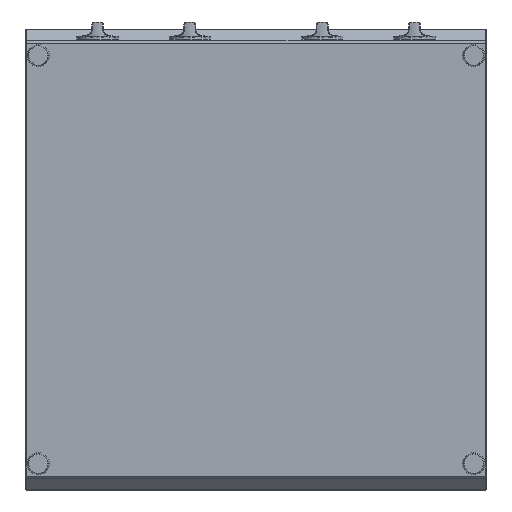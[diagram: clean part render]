
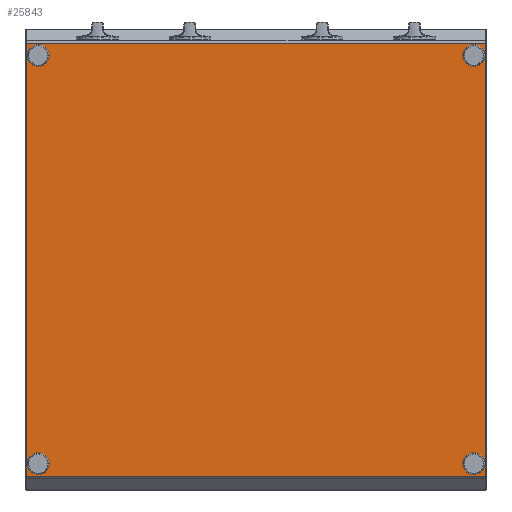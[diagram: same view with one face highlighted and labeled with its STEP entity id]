
A CAD part, front view. The second image highlights one B-rep face of the part: STEP entity #25843.
In plain terms, the highlighted planar face has unit normal (0, -1, 0).
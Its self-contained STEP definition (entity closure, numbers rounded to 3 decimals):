
#901 = CARTESIAN_POINT ( 'NONE',  ( 398.5, -179.653, 375.726 ) ) ;
#902 = CARTESIAN_POINT ( 'NONE',  ( -398.5, -179.653, 375.726 ) ) ;
#904 = CARTESIAN_POINT ( 'NONE',  ( -398.5, -179.653, -375.726 ) ) ;
#906 = CARTESIAN_POINT ( 'NONE',  ( 398.5, -179.653, -375.726 ) ) ;
#1825 = VERTEX_POINT ( 'NONE', #2740 ) ;
#1826 = VERTEX_POINT ( 'NONE', #2741 ) ;
#1829 = VERTEX_POINT ( 'NONE', #2744 ) ;
#1830 = VERTEX_POINT ( 'NONE', #2745 ) ;
#1833 = VERTEX_POINT ( 'NONE', #2748 ) ;
#1834 = VERTEX_POINT ( 'NONE', #2749 ) ;
#1837 = VERTEX_POINT ( 'NONE', #2752 ) ;
#1838 = VERTEX_POINT ( 'NONE', #2753 ) ;
#2740 = CARTESIAN_POINT ( 'NONE',  ( 378., -179.653, -358.771 ) ) ;
#2741 = CARTESIAN_POINT ( 'NONE',  ( 378., -179.653, -349.681 ) ) ;
#2744 = CARTESIAN_POINT ( 'NONE',  ( -378., -179.653, -358.771 ) ) ;
#2745 = CARTESIAN_POINT ( 'NONE',  ( -378., -179.653, -349.681 ) ) ;
#2748 = CARTESIAN_POINT ( 'NONE',  ( -378., -179.653, 349.681 ) ) ;
#2749 = CARTESIAN_POINT ( 'NONE',  ( -378., -179.653, 358.771 ) ) ;
#2752 = CARTESIAN_POINT ( 'NONE',  ( 378., -179.653, 349.681 ) ) ;
#2753 = CARTESIAN_POINT ( 'NONE',  ( 378., -179.653, 358.771 ) ) ;
#9012 = CIRCLE ( 'NONE', #38666, 4.545 ) ;
#9015 = CIRCLE ( 'NONE', #38688, 4.545 ) ;
#9017 = CIRCLE ( 'NONE', #38672, 4.545 ) ;
#9018 = CIRCLE ( 'NONE', #38637, 4.545 ) ;
#9242 = CIRCLE ( 'NONE', #43149, 4.545 ) ;
#9263 = CIRCLE ( 'NONE', #43214, 4.545 ) ;
#9279 = CIRCLE ( 'NONE', #43241, 4.545 ) ;
#9318 = CIRCLE ( 'NONE', #42131, 4.545 ) ;
#10659 = ORIENTED_EDGE ( 'NONE', *, *, #13298, .F. ) ;
#10661 = ORIENTED_EDGE ( 'NONE', *, *, #22588, .F. ) ;
#10662 = ORIENTED_EDGE ( 'NONE', *, *, #13295, .F. ) ;
#10663 = ORIENTED_EDGE ( 'NONE', *, *, #22476, .F. ) ;
#10664 = ORIENTED_EDGE ( 'NONE', *, *, #13292, .F. ) ;
#10665 = ORIENTED_EDGE ( 'NONE', *, *, #22558, .F. ) ;
#10666 = ORIENTED_EDGE ( 'NONE', *, *, #13296, .F. ) ;
#10667 = ORIENTED_EDGE ( 'NONE', *, *, #22734, .F. ) ;
#10668 = ORIENTED_EDGE ( 'NONE', *, *, #13291, .F. ) ;
#10669 = ORIENTED_EDGE ( 'NONE', *, *, #11009, .F. ) ;
#10670 = ORIENTED_EDGE ( 'NONE', *, *, #10966, .F. ) ;
#10671 = ORIENTED_EDGE ( 'NONE', *, *, #10963, .F. ) ;
#10963 = EDGE_CURVE ( 'NONE', #16606, #16617, #18093, .T. ) ;
#10966 = EDGE_CURVE ( 'NONE', #16617, #16613, #18107, .T. ) ;
#11009 = EDGE_CURVE ( 'NONE', #16613, #16609, #18263, .T. ) ;
#13291 = EDGE_CURVE ( 'NONE', #1838, #1837, #9017, .T. ) ;
#13292 = EDGE_CURVE ( 'NONE', #1830, #1829, #9012, .T. ) ;
#13295 = EDGE_CURVE ( 'NONE', #1826, #1825, #9015, .T. ) ;
#13296 = EDGE_CURVE ( 'NONE', #1834, #1833, #9018, .T. ) ;
#13298 = EDGE_CURVE ( 'NONE', #16609, #16606, #19412, .T. ) ;
#16606 = VERTEX_POINT ( 'NONE', #901 ) ;
#16609 = VERTEX_POINT ( 'NONE', #902 ) ;
#16613 = VERTEX_POINT ( 'NONE', #904 ) ;
#16617 = VERTEX_POINT ( 'NONE', #906 ) ;
#18093 = LINE ( 'NONE', #18095, #37145 ) ;
#18095 = CARTESIAN_POINT ( 'NONE',  ( 398.5, -179.653, -375.726 ) ) ;
#18096 = DIRECTION ( 'NONE',  ( 0., 0., -1. ) ) ;
#18107 = LINE ( 'NONE', #18109, #37163 ) ;
#18109 = CARTESIAN_POINT ( 'NONE',  ( 1219.924, -179.653, -375.726 ) ) ;
#18111 = DIRECTION ( 'NONE',  ( -1., 0., 0. ) ) ;
#18263 = LINE ( 'NONE', #18264, #37328 ) ;
#18264 = CARTESIAN_POINT ( 'NONE',  ( -398.5, -179.653, -375.726 ) ) ;
#18265 = DIRECTION ( 'NONE',  ( 0., 0., 1. ) ) ;
#19390 = CARTESIAN_POINT ( 'NONE',  ( 378., -179.653, 354.226 ) ) ;
#19391 = DIRECTION ( 'NONE',  ( 0., -1., 0. ) ) ;
#19392 = DIRECTION ( 'NONE',  ( 0., 0., -1. ) ) ;
#19393 = CARTESIAN_POINT ( 'NONE',  ( -378., -179.653, -354.226 ) ) ;
#19394 = DIRECTION ( 'NONE',  ( 0., -1., 0. ) ) ;
#19395 = DIRECTION ( 'NONE',  ( 0., 0., -1. ) ) ;
#19402 = CARTESIAN_POINT ( 'NONE',  ( 378., -179.653, -354.226 ) ) ;
#19403 = DIRECTION ( 'NONE',  ( 0., -1., 0. ) ) ;
#19404 = DIRECTION ( 'NONE',  ( 0., 0., -1. ) ) ;
#19405 = CARTESIAN_POINT ( 'NONE',  ( -378., -179.653, 354.226 ) ) ;
#19406 = DIRECTION ( 'NONE',  ( 0., -1., 0. ) ) ;
#19407 = DIRECTION ( 'NONE',  ( 0., 0., -1. ) ) ;
#19412 = LINE ( 'NONE', #19413, #38709 ) ;
#19413 = CARTESIAN_POINT ( 'NONE',  ( 1219.924, -179.653, 375.726 ) ) ;
#19414 = DIRECTION ( 'NONE',  ( 1., 0., 0. ) ) ;
#20074 = EDGE_LOOP ( 'NONE', ( #10663, #10664 ) ) ;
#20083 = EDGE_LOOP ( 'NONE', ( #10661, #10662 ) ) ;
#20109 = EDGE_LOOP ( 'NONE', ( #10667, #10668 ) ) ;
#20143 = EDGE_LOOP ( 'NONE', ( #10669, #10670, #10671, #10659 ) ) ;
#20160 = EDGE_LOOP ( 'NONE', ( #10665, #10666 ) ) ;
#22476 = EDGE_CURVE ( 'NONE', #1829, #1830, #9242, .T. ) ;
#22558 = EDGE_CURVE ( 'NONE', #1833, #1834, #9263, .T. ) ;
#22588 = EDGE_CURVE ( 'NONE', #1825, #1826, #9279, .T. ) ;
#22734 = EDGE_CURVE ( 'NONE', #1837, #1838, #9318, .T. ) ;
#25843 = ADVANCED_FACE ( 'NONE', ( #34349, #34353, #34355, #34357, #34359 ), #31945, .F. ) ;
#31945 = PLANE ( 'NONE',  #34354 ) ;
#31946 = CARTESIAN_POINT ( 'NONE',  ( 1219.924, -179.653, -375.726 ) ) ;
#31947 = DIRECTION ( 'NONE',  ( 0., 1., 0. ) ) ;
#31948 = DIRECTION ( 'NONE',  ( 0., 0., 1. ) ) ;
#34349 = FACE_BOUND ( 'NONE', #20083, .T. ) ;
#34353 = FACE_BOUND ( 'NONE', #20074, .T. ) ;
#34354 = AXIS2_PLACEMENT_3D ( 'NONE', #31946, #31947, #31948 ) ;
#34355 = FACE_BOUND ( 'NONE', #20160, .T. ) ;
#34357 = FACE_BOUND ( 'NONE', #20109, .T. ) ;
#34359 = FACE_OUTER_BOUND ( 'NONE', #20143, .T. ) ;
#37145 = VECTOR ( 'NONE', #18096, 1000. ) ;
#37163 = VECTOR ( 'NONE', #18111, 1000. ) ;
#37328 = VECTOR ( 'NONE', #18265, 1000. ) ;
#38637 = AXIS2_PLACEMENT_3D ( 'NONE', #19405, #19406, #19407 ) ;
#38666 = AXIS2_PLACEMENT_3D ( 'NONE', #19393, #19394, #19395 ) ;
#38672 = AXIS2_PLACEMENT_3D ( 'NONE', #19390, #19391, #19392 ) ;
#38688 = AXIS2_PLACEMENT_3D ( 'NONE', #19402, #19403, #19404 ) ;
#38709 = VECTOR ( 'NONE', #19414, 1000. ) ;
#40262 = CARTESIAN_POINT ( 'NONE',  ( -378., -179.653, 354.226 ) ) ;
#40266 = DIRECTION ( 'NONE',  ( 0., -1., 0. ) ) ;
#40267 = DIRECTION ( 'NONE',  ( 0., 0., -1. ) ) ;
#40447 = CARTESIAN_POINT ( 'NONE',  ( 378., -179.653, -354.226 ) ) ;
#40448 = DIRECTION ( 'NONE',  ( 0., -1., 0. ) ) ;
#40449 = DIRECTION ( 'NONE',  ( 0., 0., -1. ) ) ;
#41424 = CARTESIAN_POINT ( 'NONE',  ( 378., -179.653, 354.226 ) ) ;
#41428 = DIRECTION ( 'NONE',  ( 0., -1., 0. ) ) ;
#41429 = DIRECTION ( 'NONE',  ( 0., 0., -1. ) ) ;
#42131 = AXIS2_PLACEMENT_3D ( 'NONE', #41424, #41428, #41429 ) ;
#43149 = AXIS2_PLACEMENT_3D ( 'NONE', #44382, #44392, #44393 ) ;
#43214 = AXIS2_PLACEMENT_3D ( 'NONE', #40262, #40266, #40267 ) ;
#43241 = AXIS2_PLACEMENT_3D ( 'NONE', #40447, #40448, #40449 ) ;
#44382 = CARTESIAN_POINT ( 'NONE',  ( -378., -179.653, -354.226 ) ) ;
#44392 = DIRECTION ( 'NONE',  ( 0., -1., 0. ) ) ;
#44393 = DIRECTION ( 'NONE',  ( 0., 0., -1. ) ) ;
